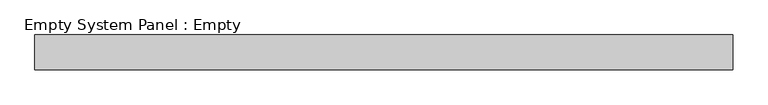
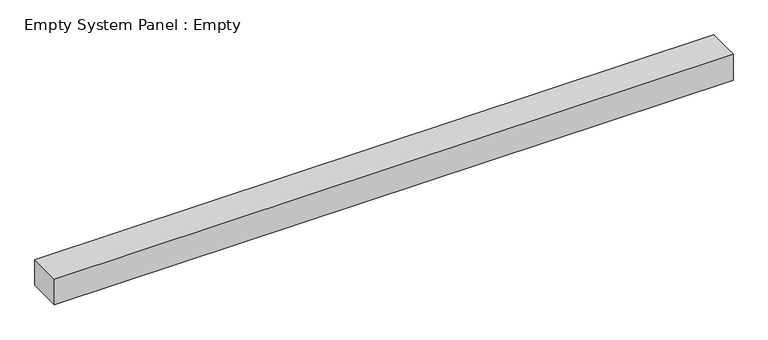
"""IFC4 building model written with IfcOpenShell, lengths in millimetres: plate geometry, Empty System Panel : Empty."""

import ifcopenshell
import ifcopenshell.guid

model = None  # the IFC model being written
_history = None  # IfcOwnerHistory: only IFC2X3 demands one
_inside = {}  # id of a spatial element -> (the spatial element, [elements in it])
_under = {}  # id of a project, library or spatial element -> (it, [spatial elements below it])
_declared = {}  # id of a project -> (the project, [libraries it declares])
_typed = {}  # id of a type object -> (the type object, [elements of that type])
_made_of = {}  # id of a material, layer set ... -> (it, [elements and type objects made of it])


def new_model(schema):
    """Start an empty IFC model of exactly this schema.

    Asked for "IFC4X3", IfcOpenShell would pick the latest addendum, in which some entities
    have other attributes; the version numbers below select the first issue.
    IFC2X3 requires an IfcOwnerHistory on every rooted entity: one is made here for all.
    """
    global model, _history
    if schema == "IFC4X3":
        model = ifcopenshell.file(schema_version=(4, 3, 0, 0))
    else:
        model = ifcopenshell.file(schema=schema)
    _inside.clear()
    _under.clear()
    _declared.clear()
    _typed.clear()
    _made_of.clear()
    _history = None
    if model.schema == "IFC2X3":
        org = make("IfcOrganization", Name="unknown")
        user = make(
            "IfcPersonAndOrganization",
            ThePerson=make("IfcPerson", FamilyName="unknown"),
            TheOrganization=org,
        )
        app = make(
            "IfcApplication",
            ApplicationDeveloper=org,
            Version="unknown",
            ApplicationFullName="unknown",
            ApplicationIdentifier="unknown",
        )
        _history = make(
            "IfcOwnerHistory",
            OwningUser=user,
            OwningApplication=app,
            ChangeAction="ADDED",
            CreationDate=0,
        )
    return model


def make(cls, **values):
    """One entity of the class cls with the attributes given. An attribute that is None is left unset."""
    return model.create_entity(
        cls, **{name: value for name, value in values.items() if value is not None}
    )


def rooted(cls, **values):
    """An entity with a GlobalId (a new one), such as an element, a storey or a relation."""
    return make(cls, GlobalId=ifcopenshell.guid.new(), OwnerHistory=_history, **values)


def si_unit(unit_type, name, prefix=None):
    """IfcSIUnit, for example si_unit("LENGTHUNIT", "METRE", prefix="MILLI")."""
    return make("IfcSIUnit", UnitType=unit_type, Prefix=prefix, Name=name)


def assignment(units):
    """IfcUnitAssignment: the units of a project."""
    return None if units is None else make("IfcUnitAssignment", Units=units)


def point(xyz):
    """IfcCartesianPoint."""
    return None if xyz is None else make("IfcCartesianPoint", Coordinates=xyz)


def direction(xyz):
    """IfcDirection."""
    return None if xyz is None else make("IfcDirection", DirectionRatios=xyz)


def frame(location, z_axis=None, x_axis=None):
    """IfcAxis2Placement3D, a coordinate frame: its origin and axes. An axis left out is left unset."""
    return make(
        "IfcAxis2Placement3D",
        Location=point(location),
        Axis=direction(z_axis),
        RefDirection=direction(x_axis),
    )


def origin():
    """The frame at (0, 0, 0) with its axes left unset."""
    return frame((0.0, 0.0, 0.0))


def origin_with_axes():
    """The frame at (0, 0, 0) with the z axis (0, 0, 1) and the x axis (1, 0, 0) written out."""
    return frame((0.0, 0.0, 0.0), z_axis=(0.0, 0.0, 1.0), x_axis=(1.0, 0.0, 0.0))


def place(relative_to, where):
    """IfcLocalPlacement: puts the frame where relative to a parent placement (None: the world)."""
    return make(
        "IfcLocalPlacement", PlacementRelTo=relative_to, RelativePlacement=where
    )


def context(
    kind, dimensions, precision=None, world=None, true_north=None, identifier=None
):
    """IfcGeometricRepresentationContext, for example the 3D "Model" context."""
    return make(
        "IfcGeometricRepresentationContext",
        ContextIdentifier=identifier,
        ContextType=kind,
        CoordinateSpaceDimension=dimensions,
        Precision=precision,
        WorldCoordinateSystem=world,
        TrueNorth=true_north,
    )


def project(units=None, contexts=None):
    """IfcProject with its units and contexts."""
    return rooted(
        "IfcProject",
        Name="project",
        RepresentationContexts=contexts,
        UnitsInContext=assignment(units),
    )


def spatial(cls, under=None, at=None, **own):
    """A site, building, storey or space (cls), placed at a placement, below another one or the project."""
    s = rooted(cls, ObjectPlacement=at, **own)
    if under is not None:
        _under.setdefault(under.id(), (under, []))[1].append(s)
    return s


def polyline(points):
    """IfcPolyline through the points."""
    return make("IfcPolyline", Points=[point(p) for p in points])


def outline(outer, holes=None, kind="AREA"):
    """IfcArbitraryClosedProfileDef: a profile drawn as a closed curve; with holes, ...WithVoids."""
    if holes is None:
        return make("IfcArbitraryClosedProfileDef", ProfileType=kind, OuterCurve=outer)
    return make(
        "IfcArbitraryProfileDefWithVoids",
        ProfileType=kind,
        OuterCurve=outer,
        InnerCurves=holes,
    )


def extrude(swept, where, along, depth):
    """IfcExtrudedAreaSolid: the profile swept, set in the frame where, extruded along a direction by depth."""
    return make(
        "IfcExtrudedAreaSolid",
        SweptArea=swept,
        Position=where,
        ExtrudedDirection=direction(along),
        Depth=depth,
    )


def shape(context_of_items, identifier, shape_type, items):
    """IfcShapeRepresentation: the items that make up one representation, for example the "Body"."""
    return make(
        "IfcShapeRepresentation",
        ContextOfItems=context_of_items,
        RepresentationIdentifier=identifier,
        RepresentationType=shape_type,
        Items=items,
    )


def source(mapping_origin, context_of_items, identifier, shape_type, items):
    """IfcRepresentationMap: a shape defined once, which mapped items show again and again."""
    return make(
        "IfcRepresentationMap",
        MappingOrigin=mapping_origin,
        MappedRepresentation=shape(context_of_items, identifier, shape_type, items),
    )


def transform(
    local_origin,
    x_axis=None,
    y_axis=None,
    z_axis=None,
    scale=None,
    scale2=None,
    scale3=None,
    uniform=True,
):
    """IfcCartesianTransformationOperator3D, or its non-uniform kind. x_axis, y_axis, z_axis: its Axis1, 2, 3."""
    if uniform:
        return make(
            "IfcCartesianTransformationOperator3D",
            Axis1=direction(x_axis),
            Axis2=direction(y_axis),
            LocalOrigin=point(local_origin),
            Scale=scale,
            Axis3=direction(z_axis),
        )
    return make(
        "IfcCartesianTransformationOperator3DnonUniform",
        Axis1=direction(x_axis),
        Axis2=direction(y_axis),
        LocalOrigin=point(local_origin),
        Scale=scale,
        Axis3=direction(z_axis),
        Scale2=scale2,
        Scale3=scale3,
    )


def mapped(mapping_source, mapping_target):
    """IfcMappedItem: shows the shape of a source again, moved by a transform."""
    return make(
        "IfcMappedItem", MappingSource=mapping_source, MappingTarget=mapping_target
    )


def made_of(thing, what):
    """Note that an element or type object is made of a material, layer set ...; save() writes the relation."""
    if what is not None:
        _made_of.setdefault(what.id(), (what, []))[1].append(thing)
    return thing


def element(
    cls,
    number,
    at=None,
    inside=None,
    cuts=None,
    type_object=None,
    material=None,
    context=None,
    identifier="Body",
    shape_type=None,
    held_by="IfcProductDefinitionShape",
    body=None,
    shapes=None,
    **own,
):
    """One element of the class cls, such as IfcWall. Its Tag is "e" and its number.

    at: its placement. inside: the storey or other place that contains it. cuts: it is an
    opening in that element (IfcRelVoidsElement). A single representation is given by context,
    identifier, shape_type and body (its items); several are given by shapes. held_by: the class
    of the entity that holds the representations. save() writes the other relations.
    """
    e = rooted(cls, Tag="e%d" % number, ObjectPlacement=at, **own)
    if body is not None:
        shapes = [shape(context, identifier, shape_type, body)]
    if shapes is not None:
        e.Representation = make(held_by, Representations=shapes)
    if inside is not None:
        _inside.setdefault(inside.id(), (inside, []))[1].append(e)
    if cuts is not None:
        rooted(
            "IfcRelVoidsElement", RelatingBuildingElement=cuts, RelatedOpeningElement=e
        )
    if type_object is not None:
        _typed.setdefault(type_object.id(), (type_object, []))[1].append(e)
    return made_of(e, material)


def aggregate(whole, parts):
    """IfcRelAggregates: a whole, such as a stair, and the parts it consists of."""
    return rooted("IfcRelAggregates", RelatingObject=whole, RelatedObjects=parts)


def save(model, path):
    """Write the relations noted so far, then the file.

    IfcRelAggregates (storeys below a building ...), IfcRelContainedInSpatialStructure (elements
    in a storey), IfcRelDefinesByType, IfcRelAssociatesMaterial and IfcRelDeclares: one each for
    every whole, place, type object, material and project.
    """
    for whole, parts in _under.values():
        aggregate(whole, parts)
    for where, things in _inside.values():
        rooted(
            "IfcRelContainedInSpatialStructure",
            RelatedElements=things,
            RelatingStructure=where,
        )
    for kind, things in _typed.values():
        rooted("IfcRelDefinesByType", RelatedObjects=things, RelatingType=kind)
    for what, things in _made_of.values():
        rooted("IfcRelAssociatesMaterial", RelatedObjects=things, RelatingMaterial=what)
    for by, libraries in _declared.values():
        rooted("IfcRelDeclares", RelatingContext=by, RelatedDefinitions=libraries)
    model.write(path)


def empty_system_panel_empty_86242385(model_context):
    return source(origin(), model_context, "Body", "SweptSolid", [
        extrude(outline(polyline([(1000.0, -50.0), (-1000.0, -50.0), (-1000.0, 50.0), (1000.0, 50.0), (1000.0, -50.0)])), origin_with_axes(), (0.0, 0.0, 1.0), 80.0),
    ])


if __name__ == "__main__":
    model = new_model("IFC4")
    model_context = context("Model", 3, world=origin())
    ifc_project = project(units=[si_unit("LENGTHUNIT", "METRE", prefix="MILLI")], contexts=[model_context])
    site = spatial("IfcSite", under=ifc_project)
    building = spatial("IfcBuilding", under=site)
    placement = place(None, origin())
    empty_system_panel_empty_shape = empty_system_panel_empty_86242385(model_context)
    element("IfcPlate", 1, ObjectType="Empty System Panel : Empty", at=placement, inside=building, context=model_context, shape_type="MappedRepresentation", body=[
        mapped(empty_system_panel_empty_shape, transform((0.0, 0.0, 0.0), x_axis=(1.0, 0.0, 0.0), y_axis=(0.0, 1.0, 0.0), z_axis=(0.0, 0.0, 1.0))),
    ])
    save(model, "model.ifc")
